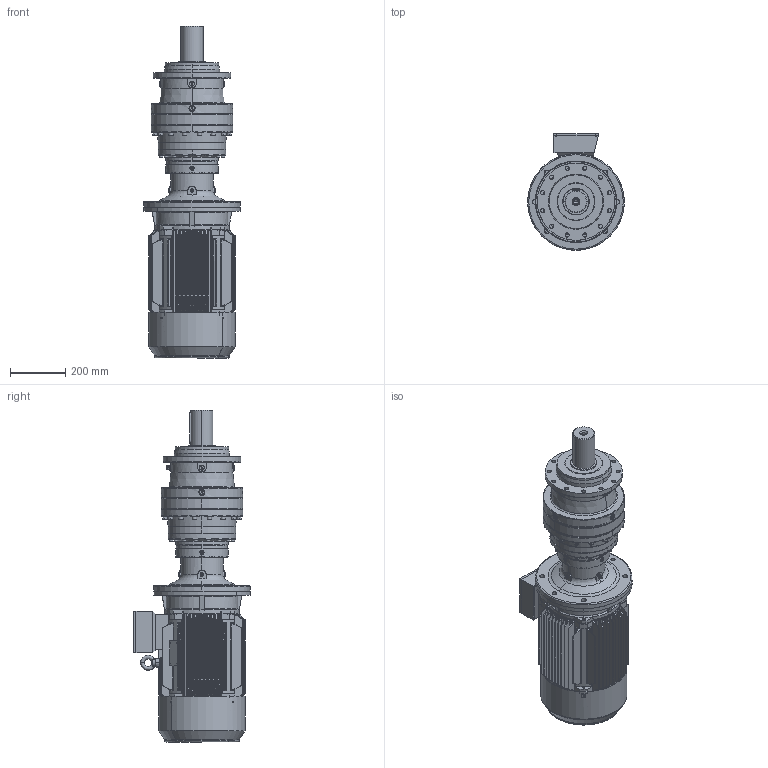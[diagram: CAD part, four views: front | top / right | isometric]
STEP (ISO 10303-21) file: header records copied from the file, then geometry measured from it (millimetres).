
FILE_DESCRIPTION (( 'STEP AP203' ), '1' );
FILE_NAME ('PVL-1903L-HS160L-4.STEP', '2019-05-24T08:02:15', ( '' ), ( '' ), 'SwSTEP 2.0', 'SolidWorks 2012', '' );
FILE_SCHEMA (( 'CONFIG_CONTROL_DESIGN' ));
Products named in the file (18): M3-160L-FF-B5; Y2-160_shaft; M3-HS160L-FF-B5; PVL-1903L-HS160L-4; Y2-160L+À+¿(B5)_-++ñ; +¦i-MN2-160_-++ñ; Y2-160-2ª¥--®+_-++ñ; Eyebolts GB_GB_FASTENER_SCREWS_FRS M12N; Y2-160ñ»ª­+¿_-++ñ; Y2-160-180ñ»ª­®+_-++ñ; +ª+§ªiY2-160ñ»ª­_-++ñ; Y2-160-4Ý¾6Ý¾8-ª+---®+_-++ñ; EK1903L_Varsayìlan; PNL_1903L_0_0_A16_B5_ML25A_FL5A_0_0_0_0_0_0_0_0_0_0_0_M1; FL5A_Varsayìlan; P19_Varsayìlan; ML25A_Varsayìlan; 11160B5_Varsayìlan
Assembly tree (17 placements, depth 5):
  PVL-1903L-HS160L-4
    PNL_1903L_0_0_A16_B5_ML25A_FL5A_0_0_0_0_0_0_0_0_0_0_0_M1
      P19_Varsayìlan
      11160B5_Varsayìlan
      ML25A_Varsayìlan
      EK1903L_Varsayìlan
      FL5A_Varsayìlan
    M3-HS160L-FF-B5
      M3-160L-FF-B5
        +ª+§ªiY2-160ñ»ª­_-++ñ
          Y2-160-180ñ»ª­®+_-++ñ
          Y2-160ñ»ª­+¿_-++ñ
        Y2-160-4Ý¾6Ý¾8-ª+---®+_-++ñ
        Y2-160L+À+¿(B5)_-++ñ
        Eyebolts GB_GB_FASTENER_SCREWS_FRS M12N
        Y2-160-2ª¥--®+_-++ñ
        +¦i-MN2-160_-++ñ
        Y2-160_shaft
Bounding box: 350 x 422 x 1203.1 mm (x, y, z)
Volume: 27684392.9 mm3; surface area: 3558351.4 mm2
Topology: 16 solids, 29 shells, 3454 faces, 9102 edges, 5802 vertices
Faces by surface type: plane 1393, cylinder 1297, bspline 394, cone 249, torus 81, sphere 40
Full cylindrical faces by diameter (mm): 8.566 x1
Entity records: 156582 total; most frequent: CARTESIAN_POINT 72849, ORIENTED_EDGE 17966, DIRECTION 16059, EDGE_CURVE 8991, AXIS2_PLACEMENT_3D 6163, VERTEX_POINT 5788, EDGE_LOOP 3864, VECTOR 3733
